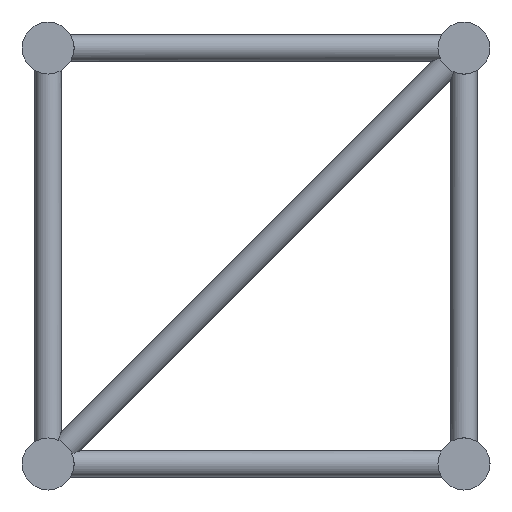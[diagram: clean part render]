
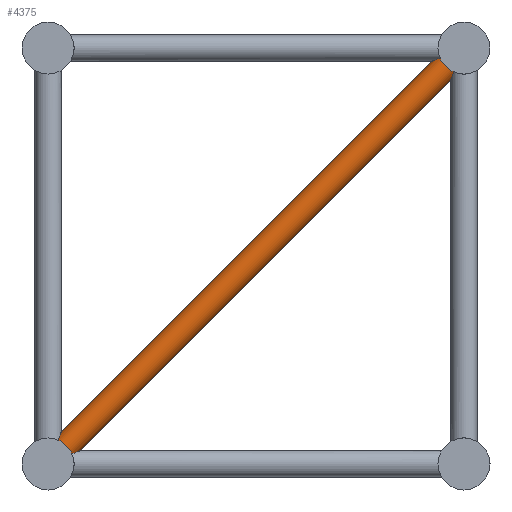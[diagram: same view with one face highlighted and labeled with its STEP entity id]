
A CAD part, left-side view. The second image highlights one B-rep face of the part: STEP entity #4375.
In plain terms, the highlighted cylindrical face has radius 15 mm (diameter 30 mm), a full revolution.
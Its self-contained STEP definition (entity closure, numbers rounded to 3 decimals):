
#614=FACE_BOUND('',#1047,.T.);
#760=FACE_OUTER_BOUND('',#1046,.T.);
#1046=EDGE_LOOP('',(#2778,#2779,#2780,#2781,#2782,#2783));
#1047=EDGE_LOOP('',(#2784,#2785,#2786,#2787,#2788,#2789));
#1478=CIRCLE('',#4665,15.);
#1479=CIRCLE('',#4666,15.);
#1480=CIRCLE('',#4668,15.);
#1481=CIRCLE('',#4669,15.);
#1482=CIRCLE('',#4671,15.);
#1483=CIRCLE('',#4672,15.);
#1484=CIRCLE('',#4674,15.);
#1485=CIRCLE('',#4675,15.);
#1702=ELLIPSE('',#4664,39.197,15.);
#1703=ELLIPSE('',#4667,39.197,15.);
#1704=ELLIPSE('',#4670,39.197,15.);
#1705=ELLIPSE('',#4673,39.197,15.);
#1806=VERTEX_POINT('',#6641);
#1807=VERTEX_POINT('',#6642);
#1808=VERTEX_POINT('',#6644);
#1809=VERTEX_POINT('',#6646);
#1810=VERTEX_POINT('',#6648);
#1811=VERTEX_POINT('',#6650);
#1812=VERTEX_POINT('',#6653);
#1813=VERTEX_POINT('',#6654);
#1814=VERTEX_POINT('',#6656);
#1815=VERTEX_POINT('',#6658);
#1816=VERTEX_POINT('',#6660);
#1817=VERTEX_POINT('',#6662);
#2190=EDGE_CURVE('',#1806,#1807,#1702,.T.);
#2191=EDGE_CURVE('',#1808,#1806,#1478,.T.);
#2192=EDGE_CURVE('',#1809,#1808,#1479,.T.);
#2193=EDGE_CURVE('',#1810,#1809,#1703,.T.);
#2194=EDGE_CURVE('',#1811,#1810,#1480,.T.);
#2195=EDGE_CURVE('',#1807,#1811,#1481,.T.);
#2196=EDGE_CURVE('',#1812,#1813,#1704,.T.);
#2197=EDGE_CURVE('',#1814,#1812,#1482,.T.);
#2198=EDGE_CURVE('',#1815,#1814,#1483,.T.);
#2199=EDGE_CURVE('',#1816,#1815,#1705,.T.);
#2200=EDGE_CURVE('',#1817,#1816,#1484,.T.);
#2201=EDGE_CURVE('',#1813,#1817,#1485,.T.);
#2778=ORIENTED_EDGE('',*,*,#2190,.F.);
#2779=ORIENTED_EDGE('',*,*,#2191,.F.);
#2780=ORIENTED_EDGE('',*,*,#2192,.F.);
#2781=ORIENTED_EDGE('',*,*,#2193,.F.);
#2782=ORIENTED_EDGE('',*,*,#2194,.F.);
#2783=ORIENTED_EDGE('',*,*,#2195,.F.);
#2784=ORIENTED_EDGE('',*,*,#2196,.F.);
#2785=ORIENTED_EDGE('',*,*,#2197,.F.);
#2786=ORIENTED_EDGE('',*,*,#2198,.F.);
#2787=ORIENTED_EDGE('',*,*,#2199,.F.);
#2788=ORIENTED_EDGE('',*,*,#2200,.F.);
#2789=ORIENTED_EDGE('',*,*,#2201,.F.);
#4010=CYLINDRICAL_SURFACE('',#4663,15.);
#4375=ADVANCED_FACE('',(#760,#614),#4010,.T.);
#4663=AXIS2_PLACEMENT_3D('',#6640,#5279,#5280);
#4664=AXIS2_PLACEMENT_3D('',#6643,#5281,#5282);
#4665=AXIS2_PLACEMENT_3D('',#6645,#5283,#5284);
#4666=AXIS2_PLACEMENT_3D('',#6647,#5285,#5286);
#4667=AXIS2_PLACEMENT_3D('',#6649,#5287,#5288);
#4668=AXIS2_PLACEMENT_3D('',#6651,#5289,#5290);
#4669=AXIS2_PLACEMENT_3D('',#6652,#5291,#5292);
#4670=AXIS2_PLACEMENT_3D('',#6655,#5293,#5294);
#4671=AXIS2_PLACEMENT_3D('',#6657,#5295,#5296);
#4672=AXIS2_PLACEMENT_3D('',#6659,#5297,#5298);
#4673=AXIS2_PLACEMENT_3D('',#6661,#5299,#5300);
#4674=AXIS2_PLACEMENT_3D('',#6663,#5301,#5302);
#4675=AXIS2_PLACEMENT_3D('',#6664,#5303,#5304);
#5279=DIRECTION('center_axis',(0.,-0.707,
0.707));
#5280=DIRECTION('ref_axis',(0.,-0.707,-0.707));
#5281=DIRECTION('center_axis',(0.,-0.924,-0.383));
#5282=DIRECTION('ref_axis',(0.,0.383,-0.924));
#5283=DIRECTION('center_axis',(0.,-0.707,
0.707));
#5284=DIRECTION('ref_axis',(0.,-0.707,-0.707));
#5285=DIRECTION('center_axis',(0.,-0.707,
0.707));
#5286=DIRECTION('ref_axis',(0.,-0.707,-0.707));
#5287=DIRECTION('center_axis',(0.,0.383,0.924));
#5288=DIRECTION('ref_axis',(0.,-0.924,0.383));
#5289=DIRECTION('center_axis',(0.,-0.707,
0.707));
#5290=DIRECTION('ref_axis',(0.,-0.707,-0.707));
#5291=DIRECTION('center_axis',(0.,-0.707,
0.707));
#5292=DIRECTION('ref_axis',(0.,-0.707,-0.707));
#5293=DIRECTION('center_axis',(0.,0.924,0.383));
#5294=DIRECTION('ref_axis',(0.,0.383,-0.924));
#5295=DIRECTION('center_axis',(0.,0.707,-0.707));
#5296=DIRECTION('ref_axis',(0.,-0.707,-0.707));
#5297=DIRECTION('center_axis',(0.,0.707,-0.707));
#5298=DIRECTION('ref_axis',(0.,-0.707,-0.707));
#5299=DIRECTION('center_axis',(0.,-0.383,-0.924));
#5300=DIRECTION('ref_axis',(0.,-0.924,0.383));
#5301=DIRECTION('center_axis',(0.,0.707,-0.707));
#5302=DIRECTION('ref_axis',(0.,-0.707,-0.707));
#5303=DIRECTION('center_axis',(0.,0.707,-0.707));
#5304=DIRECTION('ref_axis',(0.,-0.707,-0.707));
#6640=CARTESIAN_POINT('Origin',(95.,452.322,-452.322));
#6641=CARTESIAN_POINT('',(84.148,10.356,-25.));
#6642=CARTESIAN_POINT('',(105.852,10.356,-25.));
#6643=CARTESIAN_POINT('Origin',(95.,0.,0.));
#6644=CARTESIAN_POINT('',(80.,17.678,-17.678));
#6645=CARTESIAN_POINT('Origin',(95.,17.678,-17.678));
#6646=CARTESIAN_POINT('',(84.148,25.,-10.355));
#6647=CARTESIAN_POINT('Origin',(95.,17.678,-17.678));
#6648=CARTESIAN_POINT('',(105.852,25.,-10.355));
#6649=CARTESIAN_POINT('Origin',(95.,0.,
0.));
#6650=CARTESIAN_POINT('',(110.,17.678,-17.678));
#6651=CARTESIAN_POINT('Origin',(95.,17.678,-17.678));
#6652=CARTESIAN_POINT('Origin',(95.,17.678,-17.678));
#6653=CARTESIAN_POINT('',(84.148,459.645,-445.));
#6654=CARTESIAN_POINT('',(105.852,459.645,-445.));
#6655=CARTESIAN_POINT('Origin',(95.,470.,-470.));
#6656=CARTESIAN_POINT('',(80.,452.322,-452.322));
#6657=CARTESIAN_POINT('Origin',(95.,452.322,-452.322));
#6658=CARTESIAN_POINT('',(84.148,445.,-459.645));
#6659=CARTESIAN_POINT('Origin',(95.,452.322,-452.322));
#6660=CARTESIAN_POINT('',(105.852,445.,-459.645));
#6661=CARTESIAN_POINT('Origin',(95.,470.,-470.));
#6662=CARTESIAN_POINT('',(110.,452.322,-452.322));
#6663=CARTESIAN_POINT('Origin',(95.,452.322,-452.322));
#6664=CARTESIAN_POINT('Origin',(95.,452.322,-452.322));
